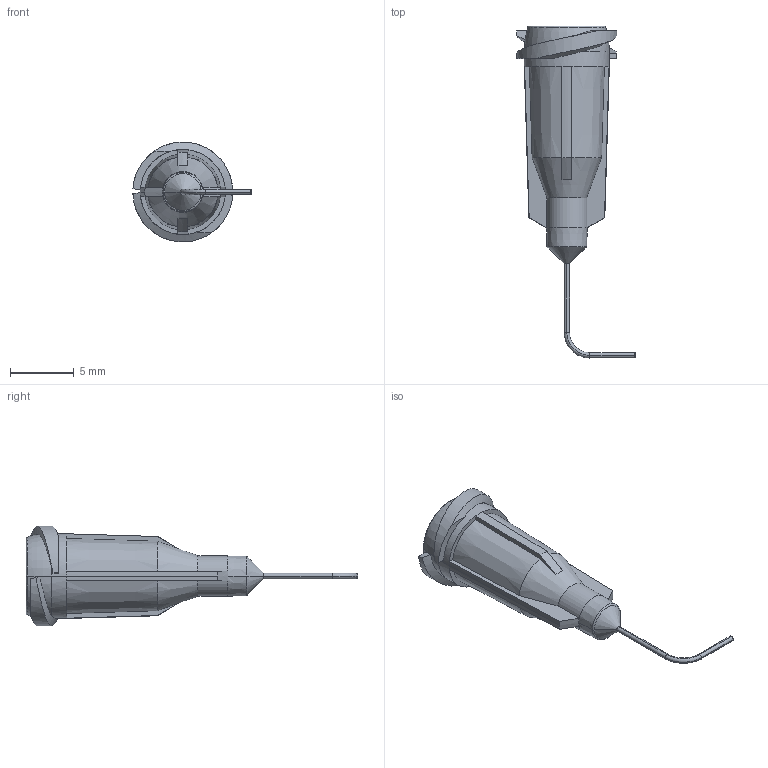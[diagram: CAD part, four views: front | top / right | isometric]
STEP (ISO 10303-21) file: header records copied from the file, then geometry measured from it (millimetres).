
FILE_DESCRIPTION (( 'STEP AP214' ), '1' );
FILE_NAME ('NORDSONEFD-7018402 TIP 27GA GP 008 90D CL.STEP', '2020-06-10T01:19:36', ( '' ), ( '' ), 'SwSTEP 2.0', 'SolidWorks 2019', '' );
FILE_SCHEMA (( 'AUTOMOTIVE_DESIGN' ));
Length unit declared in the file: inch
Products named in the file (1): NORDSONEFD-7018402 TIP 27GA GP 008 90D CL
Bounding box: 9.26 x 25.99 x 7.81 mm (x, y, z)
Volume: 266.5 mm3; surface area: 556.2 mm2
Topology: 1 solids, 1 shells, 127 faces, 292 edges, 170 vertices
Faces by surface type: torus 38, cylinder 30, plane 25, cone 22, bspline 12
Entity records: 4012 total; most frequent: CARTESIAN_POINT 1124, DIRECTION 632, ORIENTED_EDGE 584, EDGE_CURVE 292, AXIS2_PLACEMENT_3D 280, VERTEX_POINT 170, CIRCLE 164, EDGE_LOOP 132
